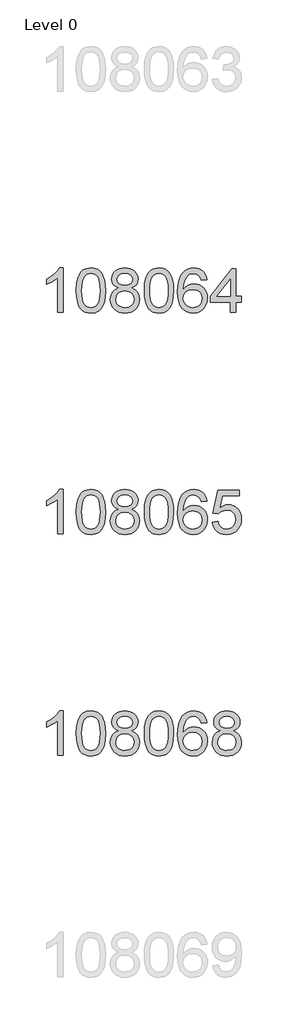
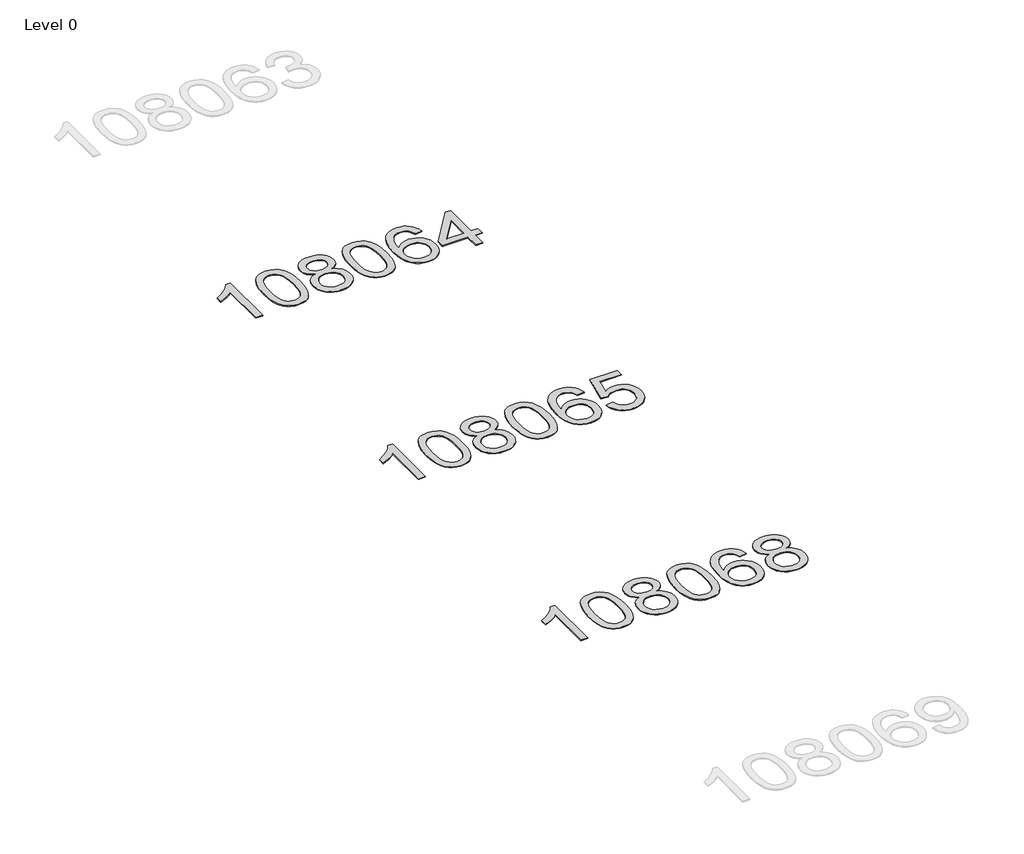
# One storey, part 2 of 9: 3 proxies.
"""IFC4 building model written with IfcOpenShell, lengths in millimetres."""

from ifc_helpers import new_model, si_unit, origin, origin_with_axes, place, context, project, spatial, polyline, outline, extrude, element, save

model = new_model("IFC4")

# Units and contexts
model_context = context("Model", 3, world=origin())
ifc_project = project(units=[si_unit("LENGTHUNIT", "METRE", prefix="MILLI")], contexts=[model_context])

# Site, building, storey
site = spatial("IfcSite", under=ifc_project)
building = spatial("IfcBuilding", under=site)
storey = spatial("IfcBuildingStorey", under=building, Name="Level 0", Elevation=0.0)

# Proxies
placement = place(None, origin())
element("IfcBuildingElementProxy", 1, Name="400mm Arial", ObjectType="400mm Arial", at=placement, inside=storey, context=model_context, shape_type="SweptSolid", body=[
    extrude(outline(polyline([(-3629.592891, -5850.9767982), (-3679.821046, -5850.9767982), (-3679.821046, -5537.8356439), (-3700.7903198, -5554.7950039), (-3727.4004508, -5571.7298384), (-3780.2773562, -5597.0891706), (-3780.2773562, -5549.6078677), (-3740.8281436, -5528.1480847), (-3706.6519062, -5502.6170742), (-3679.7106814, -5475.467383), (-3661.9665065, -5449.1515576), (-3629.592891, -5449.1515576), (-3629.592891, -5850.9767982)])), origin_with_axes(), (0.0, 0.0, 1.0), 5.0),
    extrude(outline(polyline([(-3510.3010227, -5653.3015394), (-3506.60994, -5588.9835039), (-3495.5366919, -5537.6884911), (-3477.1916431, -5498.6316859), (-3465.3335801, -5483.3983056), (-3451.6851581, -5471.0282736), (-3436.2003918, -5461.4572103), (-3418.8332959, -5454.6207366), (-3378.4521156, -5449.1515576), (-3347.5009771, -5452.3889191), (-3319.7872001, -5462.1010038), (-3296.6106344, -5477.9076669), (-3279.2711297, -5499.4287636), (-3266.1745307, -5526.480353), (-3255.726682, -5558.878494), (-3248.8840769, -5600.0199638), (-3246.6032085, -5653.3015394), (-3250.257503, -5717.2516929), (-3261.2203865, -5768.4240785), (-3279.4550707, -5807.5176718), (-3291.2855425, -5822.7970373), (-3304.9247675, -5835.2314488), (-3320.4279279, -5844.8668914), (-3337.8502061, -5851.7493504), (-3378.4521156, -5857.2553176), (-3406.1168416, -5854.8640846), (-3430.642308, -5847.6903857), (-3452.0285146, -5835.7342208), (-3470.2754616, -5818.9955901), (-3487.7866446, -5788.737296), (-3500.2946324, -5751.0355228), (-3507.7994251, -5705.8902706), (-3510.3010227, -5653.3015394)]), holes=[polyline([(-3460.0728676, -5653.2034376), (-3458.6013396, -5696.8679647), (-3454.1867557, -5732.2122274), (-3446.8291158, -5759.2362256), (-3436.5284199, -5777.9399594), (-3424.069483, -5790.6656108), (-3410.23712, -5799.7553617), (-3395.0313308, -5805.2092123), (-3378.4521156, -5807.0271625), (-3361.8729003, -5805.2030809), (-3346.6671112, -5799.7308363), (-3332.8347482, -5790.6104285), (-3320.3758113, -5777.8418575), (-3310.0751154, -5759.1074669), (-3302.7174755, -5732.0896001), (-3298.3028916, -5696.7882569), (-3296.8313636, -5653.2034376), (-3298.2538406, -5610.694673), (-3302.5212718, -5575.9727441), (-3309.633657, -5549.0376506), (-3319.5909964, -5529.8893928), (-3331.8414668, -5516.5414077), (-3345.8332454, -5507.0071327), (-3361.566332, -5501.2865677), (-3379.0407268, -5499.3797127), (-3395.5341029, -5501.0597071), (-3410.4823746, -5506.0996904), (-3423.885542, -5514.4996627), (-3435.743605, -5526.2596238), (-3446.3876574, -5547.1062702), (-3453.9905519, -5575.2124546), (-3458.5522887, -5610.5781771), (-3460.0728676, -5653.2034376)])]), origin_with_axes(), (0.0, 0.0, 1.0), 5.0),
    extrude(outline(polyline([(-3129.4695813, -5629.6589899), (-3156.3617551, -5616.4152381), (-3175.2341015, -5598.4625967), (-3186.3809259, -5576.1689478), (-3190.0965341, -5549.9021733), (-3188.0731831, -5529.4172776), (-3182.0031302, -5510.6369017), (-3171.8863753, -5493.5610458), (-3157.7229185, -5478.1897097), (-3140.1933414, -5465.4855182), (-3119.9782258, -5456.4110956), (-3097.0775716, -5450.9664421), (-3071.4913788, -5449.1515576), (-3045.7825587, -5451.0093617), (-3022.7102263, -5456.5827739), (-3002.2743814, -5465.8717943), (-2984.4750242, -5478.8764228), (-2970.05405, -5494.5481958), (-2959.7533542, -5511.8386496), (-2953.5729366, -5530.7477841), (-2951.5127975, -5551.2755994), (-2955.1793547, -5576.6962453), (-2966.1790263, -5598.6097495), (-2984.6344398, -5616.4520263), (-3010.6682223, -5629.6589899), (-2979.753872, -5645.5882803), (-2957.2517566, -5669.0468888), (-2943.5297582, -5698.9066441), (-2938.9557587, -5734.0393746), (-2941.2243643, -5759.0921385), (-2948.0301812, -5782.0602377), (-2959.3732094, -5802.9436723), (-2975.2534489, -5821.7424423), (-2994.8370338, -5837.2793252), (-3017.2900982, -5848.3770987), (-3042.6126422, -5855.0357629), (-3070.8046658, -5857.2553176), (-3098.9966893, -5855.0265658), (-3124.3192333, -5848.3403105), (-3146.7722978, -5837.1965518), (-3166.3558826, -5821.5952895), (-3182.2361221, -5802.6646952), (-3193.5791503, -5781.5329402), (-3200.3849672, -5758.2000247), (-3202.6535728, -5732.6659485), (-3197.8956324, -5696.1720546), (-3183.621811, -5666.1528838), (-3160.5678726, -5643.6385057), (-3129.4695813, -5629.6589899)]), holes=[polyline([(-3139.868379, -5551.3737013), (-3135.4170068, -5573.2994682), (-3122.0628904, -5590.8106512), (-3100.1984372, -5602.2885694), (-3070.2160546, -5606.1145422), (-3040.9326478, -5602.3130949), (-3019.3992883, -5590.9087531), (-3006.1555365, -5573.9861813), (-3001.7409525, -5553.6300442), (-3006.3026893, -5532.501355), (-3019.9878995, -5515.0269602), (-3041.8155645, -5503.2915245), (-3070.8046658, -5499.3797127), (-3099.977708, -5503.2056854), (-3121.7685848, -5514.6836037), (-3135.3434305, -5531.5080736), (-3139.868379, -5551.3737013)]), polyline([(-3152.4254178, -5730.900115), (-3150.3284904, -5750.1158178), (-3144.0377083, -5768.7183841), (-3132.4249, -5784.94198), (-3114.361894, -5797.0207722), (-3092.7304327, -5804.5255649), (-3070.4122583, -5807.0271625), (-3036.2237582, -5801.76645), (-3022.3300815, -5795.1905593), (-3010.5701204, -5785.9843124), (-2994.5304654, -5762.0842454), (-2989.1839138, -5732.4697448), (-2994.7021437, -5702.3524721), (-3011.2568335, -5677.9251076), (-3023.3356257, -5668.4828031), (-3037.4990825, -5661.7382999), (-3072.07999, -5656.3426973), (-3105.7902435, -5661.6647235), (-3119.5275703, -5668.3172562), (-3131.1863639, -5677.6308021), (-3147.1156543, -5701.5921827), (-3152.4254178, -5730.900115)])]), origin_with_axes(), (0.0, 0.0, 1.0), 5.0),
    extrude(outline(polyline([(-2895.006123, -5653.3015394), (-2891.3150403, -5588.9835039), (-2880.2417923, -5537.6884911), (-2861.8967434, -5498.6316859), (-2850.0386805, -5483.3983056), (-2836.3902584, -5471.0282736), (-2820.9054921, -5461.4572103), (-2803.5383963, -5454.6207366), (-2763.1572159, -5449.1515576), (-2732.2060774, -5452.3889191), (-2704.4923004, -5462.1010038), (-2681.3157347, -5477.9076669), (-2663.97623, -5499.4287636), (-2650.879631, -5526.480353), (-2640.4317823, -5558.878494), (-2633.5891772, -5600.0199638), (-2631.3083089, -5653.3015394), (-2634.9626033, -5717.2516929), (-2645.9254868, -5768.4240785), (-2664.160171, -5807.5176718), (-2675.9906429, -5822.7970373), (-2689.6298678, -5835.2314488), (-2705.1330282, -5844.8668914), (-2722.5553064, -5851.7493504), (-2763.1572159, -5857.2553176), (-2790.821942, -5854.8640846), (-2815.3474083, -5847.6903857), (-2836.733615, -5835.7342208), (-2854.9805619, -5818.9955901), (-2872.4917449, -5788.737296), (-2884.9997327, -5751.0355228), (-2892.5045254, -5705.8902706), (-2895.006123, -5653.3015394)]), holes=[polyline([(-2844.7779679, -5653.2034376), (-2843.3064399, -5696.8679647), (-2838.891856, -5732.2122274), (-2831.5342161, -5759.2362256), (-2821.2335202, -5777.9399594), (-2808.7745833, -5790.6656108), (-2794.9422203, -5799.7553617), (-2779.7364312, -5805.2092123), (-2763.1572159, -5807.0271625), (-2746.5780007, -5805.2030809), (-2731.3722115, -5799.7308363), (-2717.5398485, -5790.6104285), (-2705.0809116, -5777.8418575), (-2694.7802158, -5759.1074669), (-2687.4225759, -5732.0896001), (-2683.0079919, -5696.7882569), (-2681.5364639, -5653.2034376), (-2682.958941, -5610.694673), (-2687.2263721, -5575.9727441), (-2694.3387574, -5549.0376506), (-2704.2960967, -5529.8893928), (-2716.5465671, -5516.5414077), (-2730.5383457, -5507.0071327), (-2746.2714324, -5501.2865677), (-2763.7458271, -5499.3797127), (-2780.2392032, -5501.0597071), (-2795.187475, -5506.0996904), (-2808.5906423, -5514.4996627), (-2820.4487053, -5526.2596238), (-2831.0927577, -5547.1062702), (-2838.6956523, -5575.2124546), (-2843.257389, -5610.5781771), (-2844.7779679, -5653.2034376)])]), origin_with_axes(), (0.0, 0.0, 1.0), 5.0),
    extrude(outline(polyline([(-2329.9393784, -5555.8863871), (-2380.1675335, -5562.1649065), (-2388.2609374, -5537.2715582), (-2399.1992954, -5520.27541), (-2421.9834536, -5504.603637), (-2449.5255523, -5499.3797127), (-2472.8737963, -5502.4208705), (-2494.8486141, -5511.544344), (-2513.7209605, -5530.7600468), (-2529.1352161, -5557.2107623), (-2539.5462765, -5594.6243612), (-2543.4090375, -5646.7287145), (-2523.2613669, -5623.221055), (-2499.1160453, -5606.6541024), (-2472.3219733, -5596.8316532), (-2444.2280516, -5593.5575034), (-2420.0949927, -5595.7954522), (-2397.8258693, -5602.5092986), (-2377.4206813, -5613.6990427), (-2358.8794287, -5629.3646843), (-2343.4713045, -5648.5742558), (-2332.4655014, -5670.3957895), (-2325.8620196, -5694.8292853), (-2323.660859, -5721.8747433), (-2327.8056628, -5757.8413397), (-2340.2400743, -5791.1837112), (-2359.9340238, -5819.4615739), (-2385.8574417, -5840.2346439), (-2416.8331057, -5853.0001492), (-2451.6837933, -5857.2553176), (-2481.6263221, -5854.4348889), (-2508.6687144, -5845.973603), (-2532.8109703, -5831.8714599), (-2554.0530899, -5812.1284595), (-2571.3711348, -5785.910736), (-2583.7411669, -5752.3844235), (-2591.1631861, -5711.549522), (-2593.6371926, -5663.4060316), (-2590.8903403, -5609.4316115), (-2582.6497836, -5563.3666543), (-2568.9155225, -5525.2111601), (-2549.6875569, -5494.9651287), (-2528.8470418, -5474.9216913), (-2504.6833261, -5460.6049504), (-2477.1964097, -5452.0149058), (-2446.3862926, -5449.1515576), (-2423.2526465, -5450.9235225), (-2402.3140296, -5456.2394174), (-2383.5704419, -5465.0992421), (-2367.0218835, -5477.5029967), (-2353.1159441, -5493.0337482), (-2342.3002134, -5511.2745638), (-2334.5746915, -5532.2254435), (-2329.9393784, -5555.8863871)]), holes=[polyline([(-2543.4090375, -5721.0899284), (-2540.5027697, -5743.3467891), (-2531.7839664, -5764.5981057), (-2518.245909, -5782.8695781), (-2500.8818788, -5796.1869064), (-2479.9248678, -5804.3170985), (-2455.607868, -5807.0271625), (-2422.4617002, -5801.4108307), (-2408.5465637, -5794.390416), (-2396.4033922, -5784.5618353), (-2386.5533518, -5772.3236276), (-2379.5176086, -5758.0743317), (-2373.8890141, -5723.542475), (-2379.4440322, -5690.3963073), (-2386.3878049, -5676.7754764), (-2396.1090866, -5665.1228142), (-2408.2890463, -5655.7878086), (-2422.608853, -5649.1199474), (-2457.6680071, -5643.7856585), (-2490.765124, -5649.1199474), (-2518.4421127, -5665.1228142), (-2529.3651423, -5676.6221922), (-2537.1673063, -5689.7831706), (-2541.8486047, -5704.6057493), (-2543.4090375, -5721.0899284)])]), origin_with_axes(), (0.0, 0.0, 1.0), 5.0),
    extrude(outline(polyline([(-2206.5272318, -5629.6589899), (-2233.4194056, -5616.4152381), (-2252.291752, -5598.4625967), (-2263.4385764, -5576.1689478), (-2267.1541846, -5549.9021733), (-2265.1308336, -5529.4172776), (-2259.0607807, -5510.6369017), (-2248.9440258, -5493.5610458), (-2234.780569, -5478.1897097), (-2217.2509919, -5465.4855182), (-2197.0358763, -5456.4110956), (-2174.1352221, -5450.9664421), (-2148.5490293, -5449.1515576), (-2122.8402092, -5451.0093617), (-2099.7678768, -5456.5827739), (-2079.3320319, -5465.8717943), (-2061.5326747, -5478.8764228), (-2047.1117005, -5494.5481958), (-2036.8110047, -5511.8386496), (-2030.6305871, -5530.7477841), (-2028.570448, -5551.2755994), (-2032.2370052, -5576.6962453), (-2043.2366768, -5598.6097495), (-2061.6920903, -5616.4520263), (-2087.7258728, -5629.6589899), (-2056.8115225, -5645.5882803), (-2034.3094071, -5669.0468888), (-2020.5874087, -5698.9066441), (-2016.0134092, -5734.0393746), (-2018.2820148, -5759.0921385), (-2025.0878317, -5782.0602377), (-2036.4308599, -5802.9436723), (-2052.3110994, -5821.7424423), (-2071.8946843, -5837.2793252), (-2094.3477487, -5848.3770987), (-2119.6702927, -5855.0357629), (-2147.8623163, -5857.2553176), (-2176.0543398, -5855.0265658), (-2201.3768838, -5848.3403105), (-2223.8299483, -5837.1965518), (-2243.4135331, -5821.5952895), (-2259.2937726, -5802.6646952), (-2270.6368008, -5781.5329402), (-2277.4426177, -5758.2000247), (-2279.7112233, -5732.6659485), (-2274.9532829, -5696.1720546), (-2260.6794615, -5666.1528838), (-2237.6255231, -5643.6385057), (-2206.5272318, -5629.6589899)]), holes=[polyline([(-2216.9260295, -5551.3737013), (-2212.4746574, -5573.2994682), (-2199.1205409, -5590.8106512), (-2177.2560877, -5602.2885694), (-2147.2737051, -5606.1145422), (-2117.9902983, -5602.3130949), (-2096.4569388, -5590.9087531), (-2083.213187, -5573.9861813), (-2078.798603, -5553.6300442), (-2083.3603398, -5532.501355), (-2097.04555, -5515.0269602), (-2118.873215, -5503.2915245), (-2147.8623163, -5499.3797127), (-2177.0353585, -5503.2056854), (-2198.8262353, -5514.6836037), (-2212.401081, -5531.5080736), (-2216.9260295, -5551.3737013)]), polyline([(-2229.4830683, -5730.900115), (-2227.3861409, -5750.1158178), (-2221.0953588, -5768.7183841), (-2209.4825505, -5784.94198), (-2191.4195445, -5797.0207722), (-2169.7880832, -5804.5255649), (-2147.4699088, -5807.0271625), (-2113.2814087, -5801.76645), (-2099.387732, -5795.1905593), (-2087.6277709, -5785.9843124), (-2071.5881159, -5762.0842454), (-2066.2415643, -5732.4697448), (-2071.7597942, -5702.3524721), (-2088.314484, -5677.9251076), (-2100.3932762, -5668.4828031), (-2114.556733, -5661.7382999), (-2149.1376405, -5656.3426973), (-2182.847894, -5661.6647235), (-2196.5852208, -5668.3172562), (-2208.2440144, -5677.6308021), (-2224.1733048, -5701.5921827), (-2229.4830683, -5730.900115)])]), origin_with_axes(), (0.0, 0.0, 1.0), 5.0),
])
element("IfcBuildingElementProxy", 2, Name="400mm Arial", ObjectType="400mm Arial", at=placement, inside=storey, context=model_context, shape_type="SweptSolid", body=[
    extrude(outline(polyline([(-3629.592891, -1850.9767982), (-3679.821046, -1850.9767982), (-3679.821046, -1537.8356439), (-3700.7903198, -1554.7950039), (-3727.4004508, -1571.7298384), (-3780.2773562, -1597.0891706), (-3780.2773562, -1549.6078677), (-3740.8281436, -1528.1480847), (-3706.6519062, -1502.6170742), (-3679.7106814, -1475.467383), (-3661.9665065, -1449.1515576), (-3629.592891, -1449.1515576), (-3629.592891, -1850.9767982)])), origin_with_axes(), (0.0, 0.0, 1.0), 5.0),
    extrude(outline(polyline([(-3510.3010227, -1653.3015394), (-3506.60994, -1588.9835039), (-3495.5366919, -1537.6884911), (-3477.1916431, -1498.6316859), (-3465.3335801, -1483.3983056), (-3451.6851581, -1471.0282736), (-3436.2003918, -1461.4572103), (-3418.8332959, -1454.6207366), (-3378.4521156, -1449.1515576), (-3347.5009771, -1452.3889191), (-3319.7872001, -1462.1010038), (-3296.6106344, -1477.9076669), (-3279.2711297, -1499.4287636), (-3266.1745307, -1526.480353), (-3255.726682, -1558.878494), (-3248.8840769, -1600.0199638), (-3246.6032085, -1653.3015394), (-3250.257503, -1717.2516929), (-3261.2203865, -1768.4240785), (-3279.4550707, -1807.5176718), (-3291.2855425, -1822.7970373), (-3304.9247675, -1835.2314488), (-3320.4279279, -1844.8668914), (-3337.8502061, -1851.7493504), (-3378.4521156, -1857.2553176), (-3406.1168416, -1854.8640846), (-3430.642308, -1847.6903857), (-3452.0285146, -1835.7342208), (-3470.2754616, -1818.9955901), (-3487.7866446, -1788.737296), (-3500.2946324, -1751.0355228), (-3507.7994251, -1705.8902706), (-3510.3010227, -1653.3015394)]), holes=[polyline([(-3460.0728676, -1653.2034376), (-3458.6013396, -1696.8679647), (-3454.1867557, -1732.2122274), (-3446.8291158, -1759.2362256), (-3436.5284199, -1777.9399594), (-3424.069483, -1790.6656108), (-3410.23712, -1799.7553617), (-3395.0313308, -1805.2092123), (-3378.4521156, -1807.0271625), (-3361.8729003, -1805.2030809), (-3346.6671112, -1799.7308363), (-3332.8347482, -1790.6104285), (-3320.3758113, -1777.8418575), (-3310.0751154, -1759.1074669), (-3302.7174755, -1732.0896001), (-3298.3028916, -1696.7882569), (-3296.8313636, -1653.2034376), (-3298.2538406, -1610.694673), (-3302.5212718, -1575.9727441), (-3309.633657, -1549.0376506), (-3319.5909964, -1529.8893928), (-3331.8414668, -1516.5414077), (-3345.8332454, -1507.0071327), (-3361.566332, -1501.2865677), (-3379.0407268, -1499.3797127), (-3395.5341029, -1501.0597071), (-3410.4823746, -1506.0996904), (-3423.885542, -1514.4996627), (-3435.743605, -1526.2596238), (-3446.3876574, -1547.1062702), (-3453.9905519, -1575.2124546), (-3458.5522887, -1610.5781771), (-3460.0728676, -1653.2034376)])]), origin_with_axes(), (0.0, 0.0, 1.0), 5.0),
    extrude(outline(polyline([(-3129.4695813, -1629.6589899), (-3156.3617551, -1616.4152381), (-3175.2341015, -1598.4625967), (-3186.3809259, -1576.1689478), (-3190.0965341, -1549.9021733), (-3188.0731831, -1529.4172776), (-3182.0031302, -1510.6369017), (-3171.8863753, -1493.5610458), (-3157.7229185, -1478.1897097), (-3140.1933414, -1465.4855182), (-3119.9782258, -1456.4110956), (-3097.0775716, -1450.9664421), (-3071.4913788, -1449.1515576), (-3045.7825587, -1451.0093617), (-3022.7102263, -1456.5827739), (-3002.2743814, -1465.8717943), (-2984.4750242, -1478.8764228), (-2970.05405, -1494.5481958), (-2959.7533542, -1511.8386496), (-2953.5729366, -1530.7477841), (-2951.5127975, -1551.2755994), (-2955.1793547, -1576.6962453), (-2966.1790263, -1598.6097495), (-2984.6344398, -1616.4520263), (-3010.6682223, -1629.6589899), (-2979.753872, -1645.5882803), (-2957.2517566, -1669.0468888), (-2943.5297582, -1698.9066441), (-2938.9557587, -1734.0393746), (-2941.2243643, -1759.0921385), (-2948.0301812, -1782.0602377), (-2959.3732094, -1802.9436723), (-2975.2534489, -1821.7424423), (-2994.8370338, -1837.2793252), (-3017.2900982, -1848.3770987), (-3042.6126422, -1855.0357629), (-3070.8046658, -1857.2553176), (-3098.9966893, -1855.0265658), (-3124.3192333, -1848.3403105), (-3146.7722978, -1837.1965518), (-3166.3558826, -1821.5952895), (-3182.2361221, -1802.6646952), (-3193.5791503, -1781.5329402), (-3200.3849672, -1758.2000247), (-3202.6535728, -1732.6659485), (-3197.8956324, -1696.1720546), (-3183.621811, -1666.1528838), (-3160.5678726, -1643.6385057), (-3129.4695813, -1629.6589899)]), holes=[polyline([(-3139.868379, -1551.3737013), (-3135.4170068, -1573.2994682), (-3122.0628904, -1590.8106512), (-3100.1984372, -1602.2885694), (-3070.2160546, -1606.1145422), (-3040.9326478, -1602.3130949), (-3019.3992883, -1590.9087531), (-3006.1555365, -1573.9861813), (-3001.7409525, -1553.6300442), (-3006.3026893, -1532.501355), (-3019.9878995, -1515.0269602), (-3041.8155645, -1503.2915245), (-3070.8046658, -1499.3797127), (-3099.977708, -1503.2056854), (-3121.7685848, -1514.6836037), (-3135.3434305, -1531.5080736), (-3139.868379, -1551.3737013)]), polyline([(-3152.4254178, -1730.900115), (-3150.3284904, -1750.1158178), (-3144.0377083, -1768.7183841), (-3132.4249, -1784.94198), (-3114.361894, -1797.0207722), (-3092.7304327, -1804.5255649), (-3070.4122583, -1807.0271625), (-3036.2237582, -1801.76645), (-3022.3300815, -1795.1905593), (-3010.5701204, -1785.9843124), (-2994.5304654, -1762.0842454), (-2989.1839138, -1732.4697448), (-2994.7021437, -1702.3524721), (-3011.2568335, -1677.9251076), (-3023.3356257, -1668.4828031), (-3037.4990825, -1661.7382999), (-3072.07999, -1656.3426973), (-3105.7902435, -1661.6647235), (-3119.5275703, -1668.3172562), (-3131.1863639, -1677.6308021), (-3147.1156543, -1701.5921827), (-3152.4254178, -1730.900115)])]), origin_with_axes(), (0.0, 0.0, 1.0), 5.0),
    extrude(outline(polyline([(-2895.006123, -1653.3015394), (-2891.3150403, -1588.9835039), (-2880.2417923, -1537.6884911), (-2861.8967434, -1498.6316859), (-2850.0386805, -1483.3983056), (-2836.3902584, -1471.0282736), (-2820.9054921, -1461.4572103), (-2803.5383963, -1454.6207366), (-2763.1572159, -1449.1515576), (-2732.2060774, -1452.3889191), (-2704.4923004, -1462.1010038), (-2681.3157347, -1477.9076669), (-2663.97623, -1499.4287636), (-2650.879631, -1526.480353), (-2640.4317823, -1558.878494), (-2633.5891772, -1600.0199638), (-2631.3083089, -1653.3015394), (-2634.9626033, -1717.2516929), (-2645.9254868, -1768.4240785), (-2664.160171, -1807.5176718), (-2675.9906429, -1822.7970373), (-2689.6298678, -1835.2314488), (-2705.1330282, -1844.8668914), (-2722.5553064, -1851.7493504), (-2763.1572159, -1857.2553176), (-2790.821942, -1854.8640846), (-2815.3474083, -1847.6903857), (-2836.733615, -1835.7342208), (-2854.9805619, -1818.9955901), (-2872.4917449, -1788.737296), (-2884.9997327, -1751.0355228), (-2892.5045254, -1705.8902706), (-2895.006123, -1653.3015394)]), holes=[polyline([(-2844.7779679, -1653.2034376), (-2843.3064399, -1696.8679647), (-2838.891856, -1732.2122274), (-2831.5342161, -1759.2362256), (-2821.2335202, -1777.9399594), (-2808.7745833, -1790.6656108), (-2794.9422203, -1799.7553617), (-2779.7364312, -1805.2092123), (-2763.1572159, -1807.0271625), (-2746.5780007, -1805.2030809), (-2731.3722115, -1799.7308363), (-2717.5398485, -1790.6104285), (-2705.0809116, -1777.8418575), (-2694.7802158, -1759.1074669), (-2687.4225759, -1732.0896001), (-2683.0079919, -1696.7882569), (-2681.5364639, -1653.2034376), (-2682.958941, -1610.694673), (-2687.2263721, -1575.9727441), (-2694.3387574, -1549.0376506), (-2704.2960967, -1529.8893928), (-2716.5465671, -1516.5414077), (-2730.5383457, -1507.0071327), (-2746.2714324, -1501.2865677), (-2763.7458271, -1499.3797127), (-2780.2392032, -1501.0597071), (-2795.187475, -1506.0996904), (-2808.5906423, -1514.4996627), (-2820.4487053, -1526.2596238), (-2831.0927577, -1547.1062702), (-2838.6956523, -1575.2124546), (-2843.257389, -1610.5781771), (-2844.7779679, -1653.2034376)])]), origin_with_axes(), (0.0, 0.0, 1.0), 5.0),
    extrude(outline(polyline([(-2329.9393784, -1555.8863871), (-2380.1675335, -1562.1649065), (-2388.2609374, -1537.2715582), (-2399.1992954, -1520.27541), (-2421.9834536, -1504.603637), (-2449.5255523, -1499.3797127), (-2472.8737963, -1502.4208705), (-2494.8486141, -1511.544344), (-2513.7209605, -1530.7600468), (-2529.1352161, -1557.2107623), (-2539.5462765, -1594.6243612), (-2543.4090375, -1646.7287145), (-2523.2613669, -1623.221055), (-2499.1160453, -1606.6541024), (-2472.3219733, -1596.8316532), (-2444.2280516, -1593.5575034), (-2420.0949927, -1595.7954522), (-2397.8258693, -1602.5092986), (-2377.4206813, -1613.6990427), (-2358.8794287, -1629.3646843), (-2343.4713045, -1648.5742558), (-2332.4655014, -1670.3957895), (-2325.8620196, -1694.8292853), (-2323.660859, -1721.8747433), (-2327.8056628, -1757.8413397), (-2340.2400743, -1791.1837112), (-2359.9340238, -1819.4615739), (-2385.8574417, -1840.2346439), (-2416.8331057, -1853.0001492), (-2451.6837933, -1857.2553176), (-2481.6263221, -1854.4348889), (-2508.6687144, -1845.973603), (-2532.8109703, -1831.8714599), (-2554.0530899, -1812.1284595), (-2571.3711348, -1785.910736), (-2583.7411669, -1752.3844235), (-2591.1631861, -1711.549522), (-2593.6371926, -1663.4060316), (-2590.8903403, -1609.4316115), (-2582.6497836, -1563.3666543), (-2568.9155225, -1525.2111601), (-2549.6875569, -1494.9651287), (-2528.8470418, -1474.9216913), (-2504.6833261, -1460.6049504), (-2477.1964097, -1452.0149058), (-2446.3862926, -1449.1515576), (-2423.2526465, -1450.9235225), (-2402.3140296, -1456.2394174), (-2383.5704419, -1465.0992421), (-2367.0218835, -1477.5029967), (-2353.1159441, -1493.0337482), (-2342.3002134, -1511.2745638), (-2334.5746915, -1532.2254435), (-2329.9393784, -1555.8863871)]), holes=[polyline([(-2543.4090375, -1721.0899284), (-2540.5027697, -1743.3467891), (-2531.7839664, -1764.5981057), (-2518.245909, -1782.8695781), (-2500.8818788, -1796.1869064), (-2479.9248678, -1804.3170985), (-2455.607868, -1807.0271625), (-2422.4617002, -1801.4108307), (-2408.5465637, -1794.390416), (-2396.4033922, -1784.5618353), (-2386.5533518, -1772.3236276), (-2379.5176086, -1758.0743317), (-2373.8890141, -1723.542475), (-2379.4440322, -1690.3963073), (-2386.3878049, -1676.7754764), (-2396.1090866, -1665.1228142), (-2408.2890463, -1655.7878086), (-2422.608853, -1649.1199474), (-2457.6680071, -1643.7856585), (-2490.765124, -1649.1199474), (-2518.4421127, -1665.1228142), (-2529.3651423, -1676.6221922), (-2537.1673063, -1689.7831706), (-2541.8486047, -1704.6057493), (-2543.4090375, -1721.0899284)])]), origin_with_axes(), (0.0, 0.0, 1.0), 5.0),
    extrude(outline(polyline([(-2116.4697193, -1850.9767982), (-2116.4697193, -1756.7990074), (-2298.5467815, -1756.7990074), (-2298.5467815, -1706.5708523), (-2103.9126806, -1455.430077), (-2066.2415643, -1455.430077), (-2066.2415643, -1706.5708523), (-2016.0134092, -1706.5708523), (-2016.0134092, -1756.7990074), (-2066.2415643, -1756.7990074), (-2066.2415643, -1850.9767982), (-2116.4697193, -1850.9767982)]), holes=[polyline([(-2116.4697193, -1706.5708523), (-2116.4697193, -1551.3737013), (-2236.7426063, -1706.5708523), (-2116.4697193, -1706.5708523)])]), origin_with_axes(), (0.0, 0.0, 1.0), 5.0),
])
element("IfcBuildingElementProxy", 3, Name="400mm Arial", ObjectType="400mm Arial", at=placement, inside=storey, context=model_context, shape_type="SweptSolid", body=[
    extrude(outline(polyline([(-3629.592891, -3850.9767982), (-3679.821046, -3850.9767982), (-3679.821046, -3537.8356439), (-3700.7903198, -3554.7950039), (-3727.4004508, -3571.7298384), (-3780.2773562, -3597.0891706), (-3780.2773562, -3549.6078677), (-3740.8281436, -3528.1480847), (-3706.6519062, -3502.6170742), (-3679.7106814, -3475.467383), (-3661.9665065, -3449.1515576), (-3629.592891, -3449.1515576), (-3629.592891, -3850.9767982)])), origin_with_axes(), (0.0, 0.0, 1.0), 5.0),
    extrude(outline(polyline([(-3510.3010227, -3653.3015394), (-3506.60994, -3588.9835039), (-3495.5366919, -3537.6884911), (-3477.1916431, -3498.6316859), (-3465.3335801, -3483.3983056), (-3451.6851581, -3471.0282736), (-3436.2003918, -3461.4572103), (-3418.8332959, -3454.6207366), (-3378.4521156, -3449.1515576), (-3347.5009771, -3452.3889191), (-3319.7872001, -3462.1010038), (-3296.6106344, -3477.9076669), (-3279.2711297, -3499.4287636), (-3266.1745307, -3526.480353), (-3255.726682, -3558.878494), (-3248.8840769, -3600.0199638), (-3246.6032085, -3653.3015394), (-3250.257503, -3717.2516929), (-3261.2203865, -3768.4240785), (-3279.4550707, -3807.5176718), (-3291.2855425, -3822.7970373), (-3304.9247675, -3835.2314488), (-3320.4279279, -3844.8668914), (-3337.8502061, -3851.7493504), (-3378.4521156, -3857.2553176), (-3406.1168416, -3854.8640846), (-3430.642308, -3847.6903857), (-3452.0285146, -3835.7342208), (-3470.2754616, -3818.9955901), (-3487.7866446, -3788.737296), (-3500.2946324, -3751.0355228), (-3507.7994251, -3705.8902706), (-3510.3010227, -3653.3015394)]), holes=[polyline([(-3460.0728676, -3653.2034376), (-3458.6013396, -3696.8679647), (-3454.1867557, -3732.2122274), (-3446.8291158, -3759.2362256), (-3436.5284199, -3777.9399594), (-3424.069483, -3790.6656108), (-3410.23712, -3799.7553617), (-3395.0313308, -3805.2092123), (-3378.4521156, -3807.0271625), (-3361.8729003, -3805.2030809), (-3346.6671112, -3799.7308363), (-3332.8347482, -3790.6104285), (-3320.3758113, -3777.8418575), (-3310.0751154, -3759.1074669), (-3302.7174755, -3732.0896001), (-3298.3028916, -3696.7882569), (-3296.8313636, -3653.2034376), (-3298.2538406, -3610.694673), (-3302.5212718, -3575.9727441), (-3309.633657, -3549.0376506), (-3319.5909964, -3529.8893928), (-3331.8414668, -3516.5414077), (-3345.8332454, -3507.0071327), (-3361.566332, -3501.2865677), (-3379.0407268, -3499.3797127), (-3395.5341029, -3501.0597071), (-3410.4823746, -3506.0996904), (-3423.885542, -3514.4996627), (-3435.743605, -3526.2596238), (-3446.3876574, -3547.1062702), (-3453.9905519, -3575.2124546), (-3458.5522887, -3610.5781771), (-3460.0728676, -3653.2034376)])]), origin_with_axes(), (0.0, 0.0, 1.0), 5.0),
    extrude(outline(polyline([(-3129.4695813, -3629.6589899), (-3156.3617551, -3616.4152381), (-3175.2341015, -3598.4625967), (-3186.3809259, -3576.1689478), (-3190.0965341, -3549.9021733), (-3188.0731831, -3529.4172776), (-3182.0031302, -3510.6369017), (-3171.8863753, -3493.5610458), (-3157.7229185, -3478.1897097), (-3140.1933414, -3465.4855182), (-3119.9782258, -3456.4110956), (-3097.0775716, -3450.9664421), (-3071.4913788, -3449.1515576), (-3045.7825587, -3451.0093617), (-3022.7102263, -3456.5827739), (-3002.2743814, -3465.8717943), (-2984.4750242, -3478.8764228), (-2970.05405, -3494.5481958), (-2959.7533542, -3511.8386496), (-2953.5729366, -3530.7477841), (-2951.5127975, -3551.2755994), (-2955.1793547, -3576.6962453), (-2966.1790263, -3598.6097495), (-2984.6344398, -3616.4520263), (-3010.6682223, -3629.6589899), (-2979.753872, -3645.5882803), (-2957.2517566, -3669.0468888), (-2943.5297582, -3698.9066441), (-2938.9557587, -3734.0393746), (-2941.2243643, -3759.0921385), (-2948.0301812, -3782.0602377), (-2959.3732094, -3802.9436723), (-2975.2534489, -3821.7424423), (-2994.8370338, -3837.2793252), (-3017.2900982, -3848.3770987), (-3042.6126422, -3855.0357629), (-3070.8046658, -3857.2553176), (-3098.9966893, -3855.0265658), (-3124.3192333, -3848.3403105), (-3146.7722978, -3837.1965518), (-3166.3558826, -3821.5952895), (-3182.2361221, -3802.6646952), (-3193.5791503, -3781.5329402), (-3200.3849672, -3758.2000247), (-3202.6535728, -3732.6659485), (-3197.8956324, -3696.1720546), (-3183.621811, -3666.1528838), (-3160.5678726, -3643.6385057), (-3129.4695813, -3629.6589899)]), holes=[polyline([(-3139.868379, -3551.3737013), (-3135.4170068, -3573.2994682), (-3122.0628904, -3590.8106512), (-3100.1984372, -3602.2885694), (-3070.2160546, -3606.1145422), (-3040.9326478, -3602.3130949), (-3019.3992883, -3590.9087531), (-3006.1555365, -3573.9861813), (-3001.7409525, -3553.6300442), (-3006.3026893, -3532.501355), (-3019.9878995, -3515.0269602), (-3041.8155645, -3503.2915245), (-3070.8046658, -3499.3797127), (-3099.977708, -3503.2056854), (-3121.7685848, -3514.6836037), (-3135.3434305, -3531.5080736), (-3139.868379, -3551.3737013)]), polyline([(-3152.4254178, -3730.900115), (-3150.3284904, -3750.1158178), (-3144.0377083, -3768.7183841), (-3132.4249, -3784.94198), (-3114.361894, -3797.0207722), (-3092.7304327, -3804.5255649), (-3070.4122583, -3807.0271625), (-3036.2237582, -3801.76645), (-3022.3300815, -3795.1905593), (-3010.5701204, -3785.9843124), (-2994.5304654, -3762.0842454), (-2989.1839138, -3732.4697448), (-2994.7021437, -3702.3524721), (-3011.2568335, -3677.9251076), (-3023.3356257, -3668.4828031), (-3037.4990825, -3661.7382999), (-3072.07999, -3656.3426973), (-3105.7902435, -3661.6647235), (-3119.5275703, -3668.3172562), (-3131.1863639, -3677.6308021), (-3147.1156543, -3701.5921827), (-3152.4254178, -3730.900115)])]), origin_with_axes(), (0.0, 0.0, 1.0), 5.0),
    extrude(outline(polyline([(-2895.006123, -3653.3015394), (-2891.3150403, -3588.9835039), (-2880.2417923, -3537.6884911), (-2861.8967434, -3498.6316859), (-2850.0386805, -3483.3983056), (-2836.3902584, -3471.0282736), (-2820.9054921, -3461.4572103), (-2803.5383963, -3454.6207366), (-2763.1572159, -3449.1515576), (-2732.2060774, -3452.3889191), (-2704.4923004, -3462.1010038), (-2681.3157347, -3477.9076669), (-2663.97623, -3499.4287636), (-2650.879631, -3526.480353), (-2640.4317823, -3558.878494), (-2633.5891772, -3600.0199638), (-2631.3083089, -3653.3015394), (-2634.9626033, -3717.2516929), (-2645.9254868, -3768.4240785), (-2664.160171, -3807.5176718), (-2675.9906429, -3822.7970373), (-2689.6298678, -3835.2314488), (-2705.1330282, -3844.8668914), (-2722.5553064, -3851.7493504), (-2763.1572159, -3857.2553176), (-2790.821942, -3854.8640846), (-2815.3474083, -3847.6903857), (-2836.733615, -3835.7342208), (-2854.9805619, -3818.9955901), (-2872.4917449, -3788.737296), (-2884.9997327, -3751.0355228), (-2892.5045254, -3705.8902706), (-2895.006123, -3653.3015394)]), holes=[polyline([(-2844.7779679, -3653.2034376), (-2843.3064399, -3696.8679647), (-2838.891856, -3732.2122274), (-2831.5342161, -3759.2362256), (-2821.2335202, -3777.9399594), (-2808.7745833, -3790.6656108), (-2794.9422203, -3799.7553617), (-2779.7364312, -3805.2092123), (-2763.1572159, -3807.0271625), (-2746.5780007, -3805.2030809), (-2731.3722115, -3799.7308363), (-2717.5398485, -3790.6104285), (-2705.0809116, -3777.8418575), (-2694.7802158, -3759.1074669), (-2687.4225759, -3732.0896001), (-2683.0079919, -3696.7882569), (-2681.5364639, -3653.2034376), (-2682.958941, -3610.694673), (-2687.2263721, -3575.9727441), (-2694.3387574, -3549.0376506), (-2704.2960967, -3529.8893928), (-2716.5465671, -3516.5414077), (-2730.5383457, -3507.0071327), (-2746.2714324, -3501.2865677), (-2763.7458271, -3499.3797127), (-2780.2392032, -3501.0597071), (-2795.187475, -3506.0996904), (-2808.5906423, -3514.4996627), (-2820.4487053, -3526.2596238), (-2831.0927577, -3547.1062702), (-2838.6956523, -3575.2124546), (-2843.257389, -3610.5781771), (-2844.7779679, -3653.2034376)])]), origin_with_axes(), (0.0, 0.0, 1.0), 5.0),
    extrude(outline(polyline([(-2329.9393784, -3555.8863871), (-2380.1675335, -3562.1649065), (-2388.2609374, -3537.2715582), (-2399.1992954, -3520.27541), (-2421.9834536, -3504.603637), (-2449.5255523, -3499.3797127), (-2472.8737963, -3502.4208705), (-2494.8486141, -3511.544344), (-2513.7209605, -3530.7600468), (-2529.1352161, -3557.2107623), (-2539.5462765, -3594.6243612), (-2543.4090375, -3646.7287145), (-2523.2613669, -3623.221055), (-2499.1160453, -3606.6541024), (-2472.3219733, -3596.8316532), (-2444.2280516, -3593.5575034), (-2420.0949927, -3595.7954522), (-2397.8258693, -3602.5092986), (-2377.4206813, -3613.6990427), (-2358.8794287, -3629.3646843), (-2343.4713045, -3648.5742558), (-2332.4655014, -3670.3957895), (-2325.8620196, -3694.8292853), (-2323.660859, -3721.8747433), (-2327.8056628, -3757.8413397), (-2340.2400743, -3791.1837112), (-2359.9340238, -3819.4615739), (-2385.8574417, -3840.2346439), (-2416.8331057, -3853.0001492), (-2451.6837933, -3857.2553176), (-2481.6263221, -3854.4348889), (-2508.6687144, -3845.973603), (-2532.8109703, -3831.8714599), (-2554.0530899, -3812.1284595), (-2571.3711348, -3785.910736), (-2583.7411669, -3752.3844235), (-2591.1631861, -3711.549522), (-2593.6371926, -3663.4060316), (-2590.8903403, -3609.4316115), (-2582.6497836, -3563.3666543), (-2568.9155225, -3525.2111601), (-2549.6875569, -3494.9651287), (-2528.8470418, -3474.9216913), (-2504.6833261, -3460.6049504), (-2477.1964097, -3452.0149058), (-2446.3862926, -3449.1515576), (-2423.2526465, -3450.9235225), (-2402.3140296, -3456.2394174), (-2383.5704419, -3465.0992421), (-2367.0218835, -3477.5029967), (-2353.1159441, -3493.0337482), (-2342.3002134, -3511.2745638), (-2334.5746915, -3532.2254435), (-2329.9393784, -3555.8863871)]), holes=[polyline([(-2543.4090375, -3721.0899284), (-2540.5027697, -3743.3467891), (-2531.7839664, -3764.5981057), (-2518.245909, -3782.8695781), (-2500.8818788, -3796.1869064), (-2479.9248678, -3804.3170985), (-2455.607868, -3807.0271625), (-2422.4617002, -3801.4108307), (-2408.5465637, -3794.390416), (-2396.4033922, -3784.5618353), (-2386.5533518, -3772.3236276), (-2379.5176086, -3758.0743317), (-2373.8890141, -3723.542475), (-2379.4440322, -3690.3963073), (-2386.3878049, -3676.7754764), (-2396.1090866, -3665.1228142), (-2408.2890463, -3655.7878086), (-2422.608853, -3649.1199474), (-2457.6680071, -3643.7856585), (-2490.765124, -3649.1199474), (-2518.4421127, -3665.1228142), (-2529.3651423, -3676.6221922), (-2537.1673063, -3689.7831706), (-2541.8486047, -3704.6057493), (-2543.4090375, -3721.0899284)])]), origin_with_axes(), (0.0, 0.0, 1.0), 5.0),
    extrude(outline(polyline([(-2279.7112233, -3744.2419686), (-2229.4830683, -3737.9634493), (-2220.2614929, -3768.1175101), (-2204.172787, -3789.7121832), (-2181.2905269, -3802.6984177), (-2151.688289, -3807.0271625), (-2132.5584253, -3805.521912), (-2115.6849044, -3801.0061605), (-2101.0677265, -3793.479908), (-2088.7068914, -3782.9431545), (-2078.8783108, -3769.9170662), (-2071.8578961, -3754.9228092), (-2066.2415643, -3719.0297892), (-2071.5022768, -3685.2336966), (-2078.0781675, -3671.3154945), (-2087.2844144, -3659.3838551), (-2099.1516744, -3649.8127918), (-2113.7106044, -3642.9763181), (-2150.9034741, -3637.5071391), (-2175.2695249, -3639.6899056), (-2195.0002626, -3646.2382051), (-2210.7578747, -3656.2691209), (-2223.2045489, -3668.899736), (-2273.432704, -3662.6212166), (-2229.4830683, -3455.430077), (-2034.8489673, -3455.430077), (-2034.8489673, -3505.658232), (-2188.868896, -3505.658232), (-2210.3532045, -3616.3171362), (-2192.6274237, -3603.6129446), (-2174.4724472, -3594.5385221), (-2155.8882751, -3589.0938685), (-2136.8749073, -3587.278984), (-2112.4138203, -3589.5291956), (-2089.9454275, -3596.2798302), (-2069.4697288, -3607.5308879), (-2050.9867242, -3623.2823686), (-2035.6858989, -3642.5716479), (-2024.7567379, -3664.4361012), (-2018.1992414, -3688.8757284), (-2016.0134092, -3715.8905295), (-2017.9815779, -3741.9120493), (-2023.8860839, -3766.1186846), (-2033.7269273, -3788.5104354), (-2047.504108, -3809.0873017), (-2068.3752798, -3830.1608086), (-2092.7290679, -3845.2133136), (-2120.5654722, -3854.2448166), (-2151.8844927, -3857.2553176), (-2177.804845, -3855.3208714), (-2201.2174683, -3849.5175329), (-2222.1223627, -3839.8453021), (-2240.5195281, -3826.304179), (-2255.8264848, -3809.5686139), (-2267.4607529, -3790.3130572), (-2275.4223324, -3768.5375087), (-2279.7112233, -3744.2419686)])), origin_with_axes(), (0.0, 0.0, 1.0), 5.0),
])

save(model, "model.ifc")
